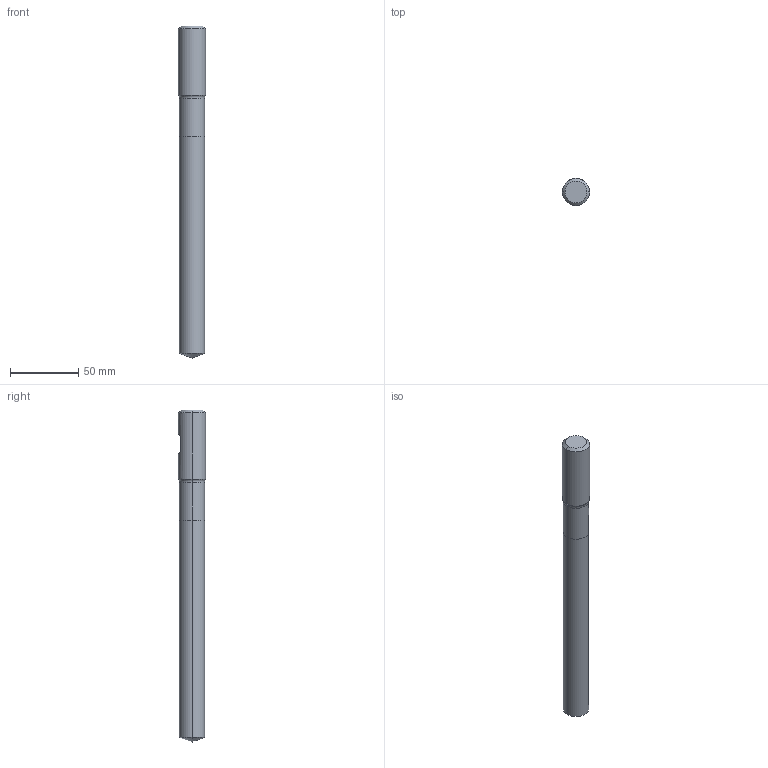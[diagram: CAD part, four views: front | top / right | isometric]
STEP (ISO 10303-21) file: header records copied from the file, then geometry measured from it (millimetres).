
FILE_DESCRIPTION (( 'STEP AP214' ), '1' );
FILE_NAME ('754.185.10_3D-model.step', '2023-08-22T07:38:29', ( '' ), ( '' ), 'SwSTEP 2.0', 'SolidWorks 2020', '' );
FILE_SCHEMA (( 'AUTOMOTIVE_DESIGN' ));
Length unit declared in the file: millimetre
Products named in the file (3): NOCUT-3D^Baugr92; 754.185.10_3D-model; CUT-3D^Baugr92
Assembly tree (2 placements, depth 2):
  754.185.10_3D-model
    CUT-3D^Baugr92
    NOCUT-3D^Baugr92
Bounding box: 20 x 20 x 243 mm (x, y, z)
Volume: 66755.4 mm3; surface area: 15240.3 mm2
Topology: 2 solids, 2 shells, 20 faces, 38 edges, 21 vertices
Faces by surface type: cone 6, cylinder 6, plane 6, torus 2
Entity records: 608 total; most frequent: DIRECTION 108, CARTESIAN_POINT 91, ORIENTED_EDGE 72, AXIS2_PLACEMENT_3D 46, EDGE_CURVE 36, EDGE_LOOP 21, VERTEX_POINT 21, FACE_OUTER_BOUND 20
